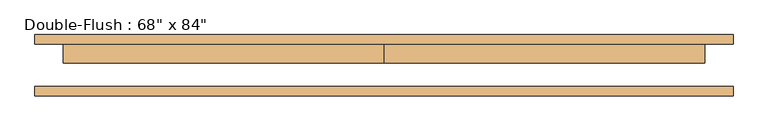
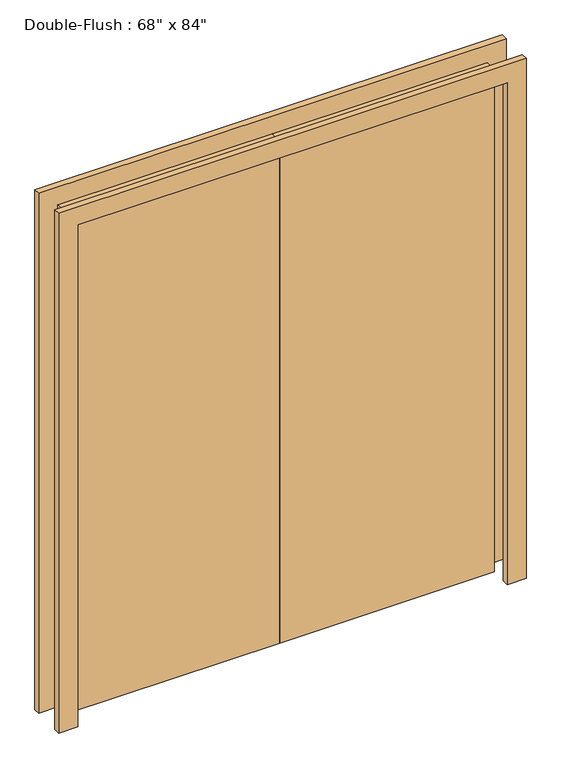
"""IFC4 building model written with IfcOpenShell, lengths in millimetres: door geometry."""

from ifc_helpers import new_model, si_unit, frame, origin, origin_with_axes, place, context, project, spatial, polyline, outline, extrude, source, transform, mapped, element, save


def door_80fcf8b2(model_context):
    return source(origin(), model_context, "Body", "SweptSolid", [
        extrude(outline(polyline([(0.0, 57.15), (863.6, 57.15), (863.6, 6.35), (0.0, 6.35), (0.0, 57.15)])), origin_with_axes(), (0.0, 0.0, 1.0), 2133.6),
        extrude(outline(polyline([(-863.6, 57.15), (0.0, 57.15), (0.0, 6.35), (-863.6, 6.35), (-863.6, 57.15)])), origin_with_axes(), (0.0, 0.0, 1.0), 2133.6),
        extrude(outline(polyline([(2133.6, -863.6), (2133.6, 863.6), (0.0, 863.6), (0.0, 939.8), (2209.8, 939.8), (2209.8, -939.8), (0.0, -939.8), (0.0, -863.6), (2133.6, -863.6)])), frame((0.0, -82.55, 0.0), z_axis=(0.0, 1.0, 0.0), x_axis=(0.0, 0.0, 1.0)), (0.0, 0.0, 1.0), 25.4),
        extrude(outline(polyline([(2133.6, -863.6), (2133.6, 863.6), (0.0, 863.6), (0.0, 939.8), (2209.8, 939.8), (2209.8, -939.8), (0.0, -939.8), (0.0, -863.6), (2133.6, -863.6)])), frame((0.0, 57.15, 0.0), z_axis=(0.0, 1.0, 0.0), x_axis=(0.0, 0.0, 1.0)), (0.0, 0.0, 1.0), 25.4),
    ])


if __name__ == "__main__":
    model = new_model("IFC4")
    model_context = context("Model", 3, world=origin())
    ifc_project = project(units=[si_unit("LENGTHUNIT", "METRE", prefix="MILLI")], contexts=[model_context])
    site = spatial("IfcSite", under=ifc_project)
    building = spatial("IfcBuilding", under=site)
    placement = place(None, origin())
    door_shape = door_80fcf8b2(model_context)
    element("IfcDoor", 1, ObjectType="Double-Flush : 68\" x 84\"", at=placement, inside=building, context=model_context, shape_type="MappedRepresentation", body=[
        mapped(door_shape, transform((0.0, 0.0, 0.0), x_axis=(1.0, 0.0, 0.0), y_axis=(0.0, 1.0, 0.0), z_axis=(0.0, 0.0, 1.0))),
    ])
    save(model, "model.ifc")
